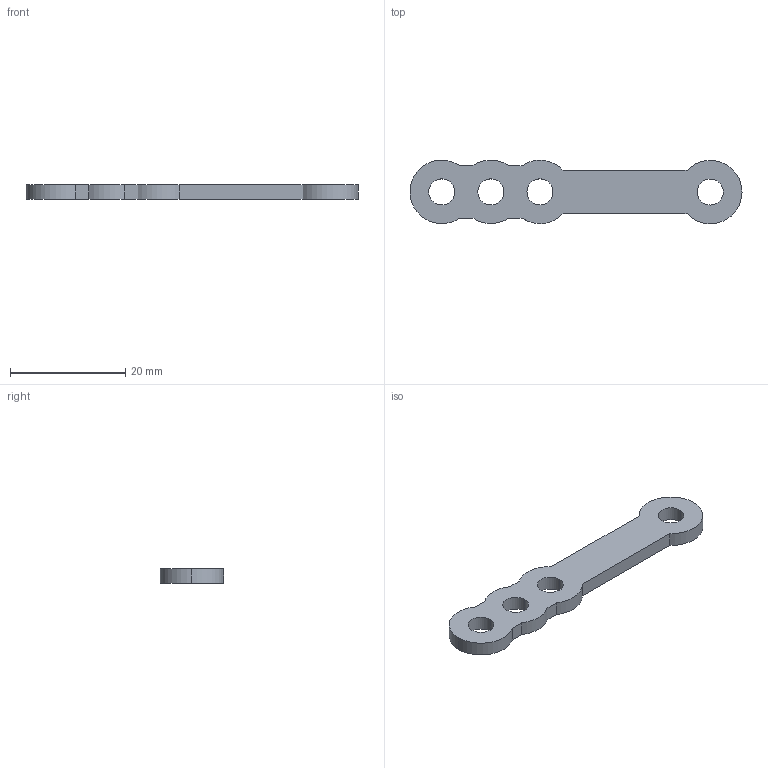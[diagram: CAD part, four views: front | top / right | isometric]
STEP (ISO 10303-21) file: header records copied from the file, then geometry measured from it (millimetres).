
FILE_DESCRIPTION (( 'STEP AP203' ), '1' );
FILE_NAME ('Gimbal Boom Plate (4 clamps RTU) (CapNut)v1.STEP', '2016-10-20T20:51:26', ( 'drhyoo' ), ( '' ), 'SwSTEP 2.0', 'SolidWorks 2016', '' );
FILE_SCHEMA (( 'CONFIG_CONTROL_DESIGN' ));
Length unit declared in the file: millimetre
Products named in the file (1): Gimbal Boom Plate (4 clamps RTU) (CapNut)v1
Bounding box: 57.5 x 11.03 x 2.5 mm (x, y, z)
Volume: 1106.8 mm3; surface area: 1354.5 mm2
Topology: 1 solids, 1 shells, 23 faces, 63 edges, 42 vertices
Faces by surface type: cylinder 15, plane 8
Entity records: 840 total; most frequent: DIRECTION 141, CARTESIAN_POINT 129, ORIENTED_EDGE 126, EDGE_CURVE 63, AXIS2_PLACEMENT_3D 54, VERTEX_POINT 42, VECTOR 33, LINE 33
